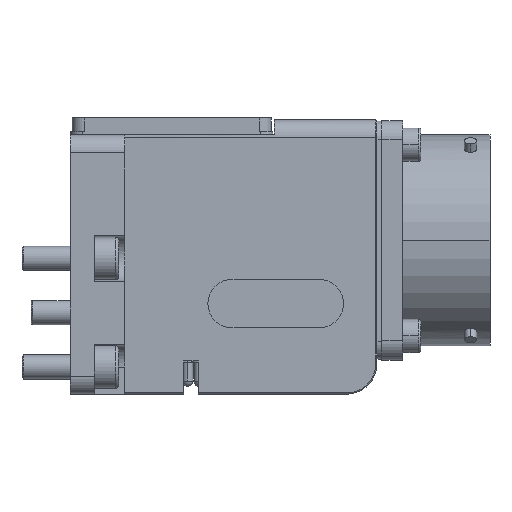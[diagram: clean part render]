
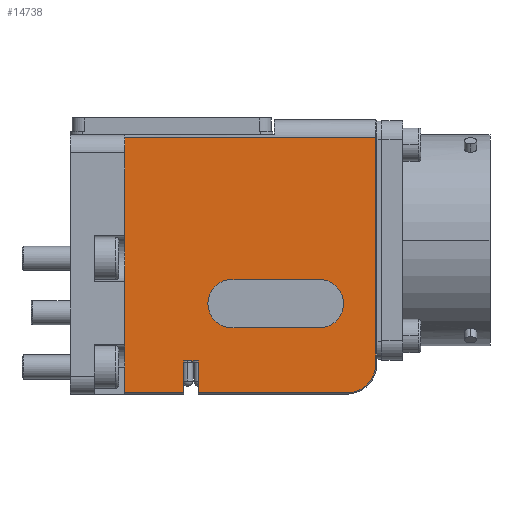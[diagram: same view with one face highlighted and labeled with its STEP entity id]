
A CAD part, left-side view. The second image highlights one B-rep face of the part: STEP entity #14738.
In plain terms, the highlighted planar face has unit normal (-1, 0, 0).
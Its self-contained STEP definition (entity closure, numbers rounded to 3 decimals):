
#213 = ORIENTED_EDGE ( 'NONE', *, *, #2800, .F. ) ;
#437 = VERTEX_POINT ( 'NONE', #23354 ) ;
#807 = LINE ( 'NONE', #925, #21979 ) ;
#854 = DIRECTION ( 'NONE',  ( 0., 0., -1. ) ) ;
#925 = CARTESIAN_POINT ( 'NONE',  ( -4.984, 12.25, 88.904 ) ) ;
#966 = CARTESIAN_POINT ( 'NONE',  ( -4.984, 12.25, 46.604 ) ) ;
#1005 = VECTOR ( 'NONE', #22856, 1000. ) ;
#1160 = VERTEX_POINT ( 'NONE', #22933 ) ;
#1278 = ORIENTED_EDGE ( 'NONE', *, *, #15734, .F. ) ;
#1322 = CARTESIAN_POINT ( 'NONE',  ( -4.984, -5.55, 57.404 ) ) ;
#1922 = ORIENTED_EDGE ( 'NONE', *, *, #13019, .T. ) ;
#2102 = DIRECTION ( 'NONE',  ( -1., 0., 0. ) ) ;
#2459 = VECTOR ( 'NONE', #9241, 1000. ) ;
#2777 = VERTEX_POINT ( 'NONE', #21498 ) ;
#2779 = CARTESIAN_POINT ( 'NONE',  ( -4.984, 0.05, 91.904 ) ) ;
#2800 = EDGE_CURVE ( 'NONE', #3245, #1160, #21127, .T. ) ;
#2828 = CARTESIAN_POINT ( 'NONE',  ( -4.984, 2.45, 51.904 ) ) ;
#3245 = VERTEX_POINT ( 'NONE', #10480 ) ;
#3246 = VECTOR ( 'NONE', #5850, 1000. ) ;
#3761 = FACE_BOUND ( 'NONE', #12125, .T. ) ;
#3887 = CARTESIAN_POINT ( 'NONE',  ( -4.984, 12.25, 65.404 ) ) ;
#4049 = ORIENTED_EDGE ( 'NONE', *, *, #20600, .F. ) ;
#4369 = DIRECTION ( 'NONE',  ( 0., 0., 1. ) ) ;
#4378 = CARTESIAN_POINT ( 'NONE',  ( -4.984, 12.25, 46.604 ) ) ;
#4394 = DIRECTION ( 'NONE',  ( 0., -1., 0. ) ) ;
#4554 = LINE ( 'NONE', #2828, #13281 ) ;
#4788 = DIRECTION ( 'NONE',  ( 0., 0., 1. ) ) ;
#5004 = ORIENTED_EDGE ( 'NONE', *, *, #18176, .F. ) ;
#5598 = CIRCLE ( 'NONE', #9924, 4. ) ;
#5682 = CARTESIAN_POINT ( 'NONE',  ( -4.984, -29.35, 91.904 ) ) ;
#5850 = DIRECTION ( 'NONE',  ( 0., 1., 0. ) ) ;
#5921 = LINE ( 'NONE', #5682, #2459 ) ;
#6345 = DIRECTION ( 'NONE',  ( 1., 0., 0. ) ) ;
#6362 = DIRECTION ( 'NONE',  ( -1., 0., 0. ) ) ;
#6372 = ORIENTED_EDGE ( 'NONE', *, *, #20074, .F. ) ;
#6512 = EDGE_CURVE ( 'NONE', #437, #9504, #22441, .T. ) ;
#7217 = DIRECTION ( 'NONE',  ( 0., 1., 0. ) ) ;
#7726 = ORIENTED_EDGE ( 'NONE', *, *, #17130, .F. ) ;
#7850 = VECTOR ( 'NONE', #4369, 1000. ) ;
#7943 = CARTESIAN_POINT ( 'NONE',  ( -4.984, -24.55, 51.404 ) ) ;
#8129 = CIRCLE ( 'NONE', #11242, 4.8 ) ;
#8259 = DIRECTION ( 'NONE',  ( 0., -1., 0. ) ) ;
#8385 = VECTOR ( 'NONE', #10611, 1000. ) ;
#8496 = VERTEX_POINT ( 'NONE', #15115 ) ;
#8545 = DIRECTION ( 'NONE',  ( 0., 1., 0. ) ) ;
#8667 = EDGE_CURVE ( 'NONE', #2777, #22954, #18602, .T. ) ;
#9241 = DIRECTION ( 'NONE',  ( 0., 0., -1. ) ) ;
#9397 = EDGE_CURVE ( 'NONE', #10696, #8496, #10260, .T. ) ;
#9504 = VERTEX_POINT ( 'NONE', #1322 ) ;
#9781 = LINE ( 'NONE', #4378, #1005 ) ;
#9804 = AXIS2_PLACEMENT_3D ( 'NONE', #13070, #23963, #18447 ) ;
#9924 = AXIS2_PLACEMENT_3D ( 'NONE', #11168, #2102, #22527 ) ;
#10167 = ORIENTED_EDGE ( 'NONE', *, *, #21151, .F. ) ;
#10260 = LINE ( 'NONE', #966, #23028 ) ;
#10335 = EDGE_CURVE ( 'NONE', #14234, #3245, #9781, .T. ) ;
#10480 = CARTESIAN_POINT ( 'NONE',  ( -4.984, 0.05, 46.604 ) ) ;
#10611 = DIRECTION ( 'NONE',  ( 0., 0., 1. ) ) ;
#10696 = VERTEX_POINT ( 'NONE', #23942 ) ;
#10776 = LINE ( 'NONE', #14436, #19598 ) ;
#11168 = CARTESIAN_POINT ( 'NONE',  ( -4.984, -20.05, 61.404 ) ) ;
#11242 = AXIS2_PLACEMENT_3D ( 'NONE', #7943, #6345, #854 ) ;
#11284 = ORIENTED_EDGE ( 'NONE', *, *, #6512, .F. ) ;
#11488 = VERTEX_POINT ( 'NONE', #16545 ) ;
#11771 = CARTESIAN_POINT ( 'NONE',  ( -4.984, 12.25, 57.404 ) ) ;
#12125 = EDGE_LOOP ( 'NONE', ( #7726, #18961, #4049, #21543, #11284 ) ) ;
#12434 = CARTESIAN_POINT ( 'NONE',  ( -4.984, 12.25, 91.904 ) ) ;
#12835 = FACE_OUTER_BOUND ( 'NONE', #16964, .T. ) ;
#13019 = EDGE_CURVE ( 'NONE', #10696, #16707, #4554, .T. ) ;
#13070 = CARTESIAN_POINT ( 'NONE',  ( -4.984, 12.25, 91.904 ) ) ;
#13281 = VECTOR ( 'NONE', #4788, 1000. ) ;
#13527 = ORIENTED_EDGE ( 'NONE', *, *, #20303, .F. ) ;
#14234 = VERTEX_POINT ( 'NONE', #16406 ) ;
#14436 = CARTESIAN_POINT ( 'NONE',  ( -4.984, 12.25, 51.904 ) ) ;
#14698 = CARTESIAN_POINT ( 'NONE',  ( -4.984, -20.05, 57.404 ) ) ;
#14738 = ADVANCED_FACE ( 'NONE', ( #3761, #12835 ), #24082, .F. ) ;
#15115 = CARTESIAN_POINT ( 'NONE',  ( -4.984, 12.25, 46.604 ) ) ;
#15734 = EDGE_CURVE ( 'NONE', #1160, #16707, #10776, .T. ) ;
#15846 = DIRECTION ( 'NONE',  ( -1., 0., 0. ) ) ;
#16406 = CARTESIAN_POINT ( 'NONE',  ( -4.984, -24.55, 46.604 ) ) ;
#16417 = ORIENTED_EDGE ( 'NONE', *, *, #10335, .F. ) ;
#16545 = CARTESIAN_POINT ( 'NONE',  ( -4.984, -29.35, 51.404 ) ) ;
#16707 = VERTEX_POINT ( 'NONE', #22072 ) ;
#16741 = CARTESIAN_POINT ( 'NONE',  ( -4.984, -29.35, 88.904 ) ) ;
#16964 = EDGE_LOOP ( 'NONE', ( #13527, #10167, #20327, #1922, #1278, #213, #16417, #5004, #6372 ) ) ;
#17130 = EDGE_CURVE ( 'NONE', #22954, #437, #20644, .T. ) ;
#17513 = DIRECTION ( 'NONE',  ( 0., -1., 0. ) ) ;
#17941 = VERTEX_POINT ( 'NONE', #16741 ) ;
#18176 = EDGE_CURVE ( 'NONE', #11488, #14234, #8129, .T. ) ;
#18447 = DIRECTION ( 'NONE',  ( 0., 1., 0. ) ) ;
#18602 = CIRCLE ( 'NONE', #22129, 4. ) ;
#18904 = AXIS2_PLACEMENT_3D ( 'NONE', #18948, #6362, #4394 ) ;
#18948 = CARTESIAN_POINT ( 'NONE',  ( -4.984, -5.55, 61.404 ) ) ;
#18961 = ORIENTED_EDGE ( 'NONE', *, *, #8667, .F. ) ;
#19211 = LINE ( 'NONE', #11771, #23573 ) ;
#19598 = VECTOR ( 'NONE', #7217, 1000. ) ;
#20074 = EDGE_CURVE ( 'NONE', #17941, #11488, #5921, .T. ) ;
#20303 = EDGE_CURVE ( 'NONE', #22094, #17941, #807, .T. ) ;
#20327 = ORIENTED_EDGE ( 'NONE', *, *, #9397, .F. ) ;
#20600 = EDGE_CURVE ( 'NONE', #20918, #2777, #5598, .T. ) ;
#20627 = EDGE_CURVE ( 'NONE', #9504, #20918, #19211, .T. ) ;
#20644 = LINE ( 'NONE', #3887, #3246 ) ;
#20918 = VERTEX_POINT ( 'NONE', #14698 ) ;
#21127 = LINE ( 'NONE', #2779, #7850 ) ;
#21151 = EDGE_CURVE ( 'NONE', #8496, #22094, #23921, .T. ) ;
#21348 = CARTESIAN_POINT ( 'NONE',  ( -4.984, -20.05, 61.404 ) ) ;
#21498 = CARTESIAN_POINT ( 'NONE',  ( -4.984, -24.05, 61.404 ) ) ;
#21543 = ORIENTED_EDGE ( 'NONE', *, *, #20627, .F. ) ;
#21598 = CARTESIAN_POINT ( 'NONE',  ( -4.984, 12.25, 88.904 ) ) ;
#21979 = VECTOR ( 'NONE', #8259, 1000. ) ;
#22072 = CARTESIAN_POINT ( 'NONE',  ( -4.984, 2.45, 51.904 ) ) ;
#22094 = VERTEX_POINT ( 'NONE', #21598 ) ;
#22129 = AXIS2_PLACEMENT_3D ( 'NONE', #21348, #15846, #23868 ) ;
#22441 = CIRCLE ( 'NONE', #18904, 4. ) ;
#22527 = DIRECTION ( 'NONE',  ( 0., -1., 0. ) ) ;
#22856 = DIRECTION ( 'NONE',  ( 0., 1., 0. ) ) ;
#22933 = CARTESIAN_POINT ( 'NONE',  ( -4.984, 0.05, 51.904 ) ) ;
#22954 = VERTEX_POINT ( 'NONE', #23824 ) ;
#23028 = VECTOR ( 'NONE', #8545, 1000. ) ;
#23354 = CARTESIAN_POINT ( 'NONE',  ( -4.984, -5.55, 65.404 ) ) ;
#23573 = VECTOR ( 'NONE', #17513, 1000. ) ;
#23824 = CARTESIAN_POINT ( 'NONE',  ( -4.984, -20.05, 65.404 ) ) ;
#23868 = DIRECTION ( 'NONE',  ( 0., -1., 0. ) ) ;
#23921 = LINE ( 'NONE', #12434, #8385 ) ;
#23942 = CARTESIAN_POINT ( 'NONE',  ( -4.984, 2.45, 46.604 ) ) ;
#23963 = DIRECTION ( 'NONE',  ( 1., 0., 0. ) ) ;
#24082 = PLANE ( 'NONE',  #9804 ) ;
